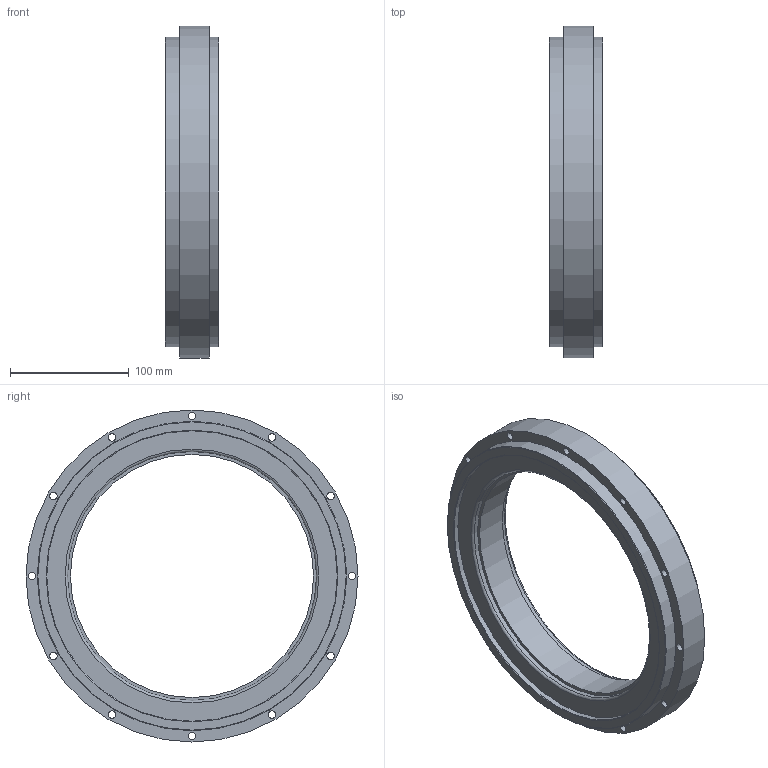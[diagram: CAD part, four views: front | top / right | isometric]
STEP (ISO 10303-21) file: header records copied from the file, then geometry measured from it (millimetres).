
FILE_DESCRIPTION(('STEP AP214'), '1');
FILE_NAME('抸迍.684222.023-30 栺僗闉 280x25', '', ('UNSPECIFIED'), ('UNSPECIFIED'), 'C3D Converter', 'C3D Toolkit', '');
FILE_SCHEMA(('AUTOMOTIVE_DESIGN { 1 0 10303 214 3 1 1}'));
Length unit declared in the file: millimetre
Products named in the file (1): МАНП.684222.023-30
Bounding box: 45 x 280 x 280 mm (x, y, z)
Volume: 1021334.3 mm3; surface area: 128955.3 mm2
Topology: 1 solids, 1 shells, 33 faces, 70 edges, 45 vertices
Faces by surface type: cylinder 20, plane 8, torus 5
Full cylindrical faces by diameter (mm): 6.4 x12, 205 x1, 210 x2, 245 x2, 261 x2, 280 x1
Entity records: 1140 total; most frequent: DIRECTION 158, CARTESIAN_POINT 124, EDGE_LOOP 90, ORIENTED_EDGE 90, AXIS2_PLACEMENT_3D 79, FACE_OUTER_BOUND 50, EDGE_CURVE 45, VERTEX_POINT 45
